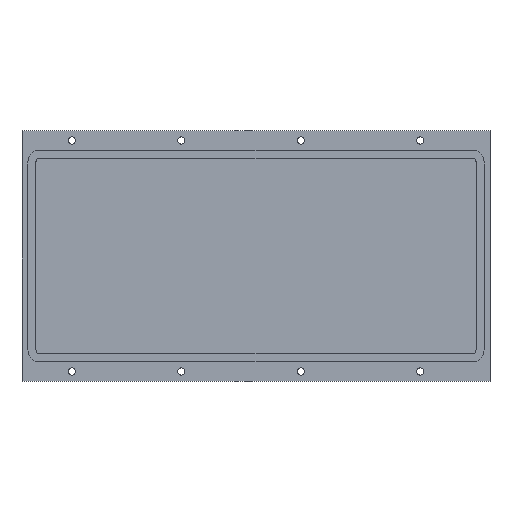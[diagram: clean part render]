
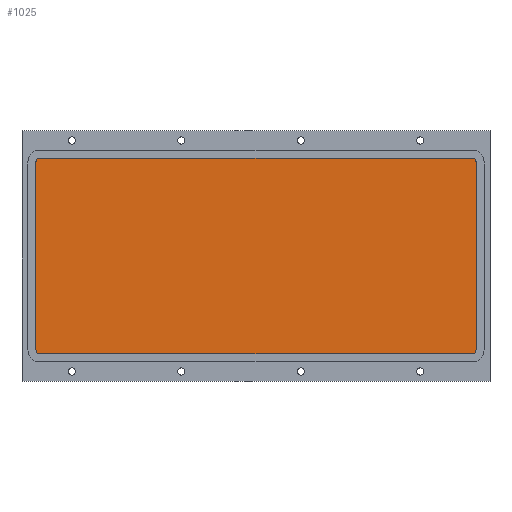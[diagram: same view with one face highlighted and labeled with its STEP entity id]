
A CAD part, top view. The second image highlights one B-rep face of the part: STEP entity #1025.
In plain terms, the highlighted planar face has unit normal (0, 0, 1).
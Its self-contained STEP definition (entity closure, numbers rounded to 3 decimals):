
#835 = VERTEX_POINT('',#836);
#836 = CARTESIAN_POINT('',(7.,110.2,5.));
#842 = EDGE_CURVE('',#835,#843,#845,.T.);
#843 = VERTEX_POINT('',#844);
#844 = CARTESIAN_POINT('',(9.,112.2,5.));
#845 = CIRCLE('',#846,2.);
#846 = AXIS2_PLACEMENT_3D('',#847,#848,#849);
#847 = CARTESIAN_POINT('',(9.,110.2,5.));
#848 = DIRECTION('',(0.,0.,-1.));
#849 = DIRECTION('',(1.,0.,0.));
#865 = EDGE_CURVE('',#866,#843,#868,.T.);
#866 = VERTEX_POINT('',#867);
#867 = CARTESIAN_POINT('',(226.,112.2,5.));
#868 = LINE('',#869,#870);
#869 = CARTESIAN_POINT('',(4.5,112.2,5.));
#870 = VECTOR('',#871,1.);
#871 = DIRECTION('',(-1.,0.,-0.));
#891 = EDGE_CURVE('',#866,#892,#894,.T.);
#892 = VERTEX_POINT('',#893);
#893 = CARTESIAN_POINT('',(228.,110.2,5.));
#894 = CIRCLE('',#895,2.);
#895 = AXIS2_PLACEMENT_3D('',#896,#897,#898);
#896 = CARTESIAN_POINT('',(226.,110.2,5.));
#897 = DIRECTION('',(0.,0.,-1.));
#898 = DIRECTION('',(1.,0.,0.));
#915 = EDGE_CURVE('',#892,#916,#918,.T.);
#916 = VERTEX_POINT('',#917);
#917 = CARTESIAN_POINT('',(228.,15.8,5.));
#918 = LINE('',#919,#920);
#919 = CARTESIAN_POINT('',(228.,118.1,5.));
#920 = VECTOR('',#921,1.);
#921 = DIRECTION('',(0.,-1.,0.));
#940 = EDGE_CURVE('',#916,#941,#943,.T.);
#941 = VERTEX_POINT('',#942);
#942 = CARTESIAN_POINT('',(226.,13.8,5.));
#943 = CIRCLE('',#944,2.);
#944 = AXIS2_PLACEMENT_3D('',#945,#946,#947);
#945 = CARTESIAN_POINT('',(226.,15.8,5.));
#946 = DIRECTION('',(0.,0.,-1.));
#947 = DIRECTION('',(1.,0.,0.));
#963 = EDGE_CURVE('',#941,#964,#966,.T.);
#964 = VERTEX_POINT('',#965);
#965 = CARTESIAN_POINT('',(9.,13.8,5.));
#966 = LINE('',#967,#968);
#967 = CARTESIAN_POINT('',(4.5,13.8,5.));
#968 = VECTOR('',#969,1.);
#969 = DIRECTION('',(-1.,0.,-0.));
#989 = EDGE_CURVE('',#964,#990,#992,.T.);
#990 = VERTEX_POINT('',#991);
#991 = CARTESIAN_POINT('',(7.,15.8,5.));
#992 = CIRCLE('',#993,2.);
#993 = AXIS2_PLACEMENT_3D('',#994,#995,#996);
#994 = CARTESIAN_POINT('',(9.,15.8,5.));
#995 = DIRECTION('',(0.,0.,-1.));
#996 = DIRECTION('',(1.,0.,0.));
#1013 = EDGE_CURVE('',#835,#990,#1014,.T.);
#1014 = LINE('',#1015,#1016);
#1015 = CARTESIAN_POINT('',(7.,118.1,5.));
#1016 = VECTOR('',#1017,1.);
#1017 = DIRECTION('',(0.,-1.,0.));
#1025 = ADVANCED_FACE('',(#1026),#1036,.F.);
#1026 = FACE_BOUND('',#1027,.F.);
#1027 = EDGE_LOOP('',(#1028,#1029,#1030,#1031,#1032,#1033,#1034,#1035));
#1028 = ORIENTED_EDGE('',*,*,#1013,.F.);
#1029 = ORIENTED_EDGE('',*,*,#842,.T.);
#1030 = ORIENTED_EDGE('',*,*,#865,.F.);
#1031 = ORIENTED_EDGE('',*,*,#891,.T.);
#1032 = ORIENTED_EDGE('',*,*,#915,.T.);
#1033 = ORIENTED_EDGE('',*,*,#940,.T.);
#1034 = ORIENTED_EDGE('',*,*,#963,.T.);
#1035 = ORIENTED_EDGE('',*,*,#989,.T.);
#1036 = PLANE('',#1037);
#1037 = AXIS2_PLACEMENT_3D('',#1038,#1039,#1040);
#1038 = CARTESIAN_POINT('',(0.,126.,5.));
#1039 = DIRECTION('',(0.,0.,-1.));
#1040 = DIRECTION('',(1.,0.,0.));
